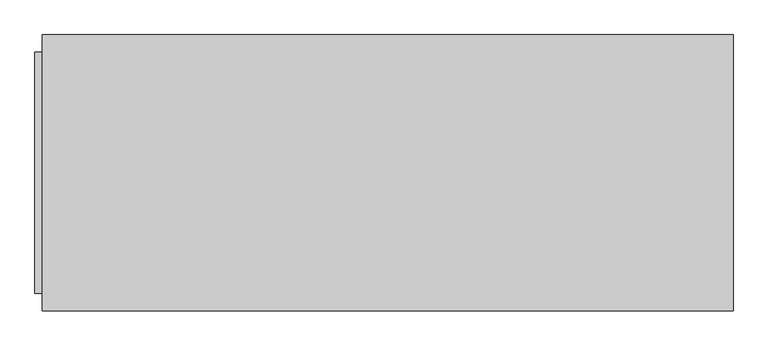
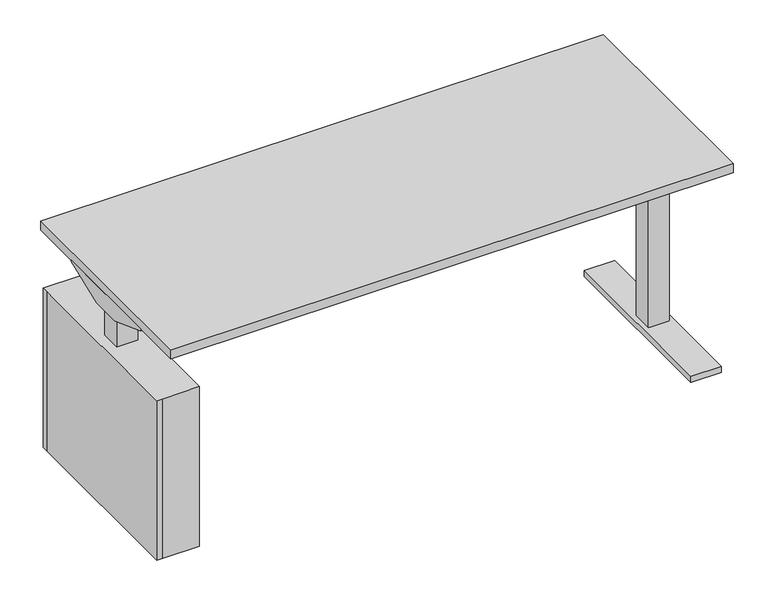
"""IFC4 building model written with IfcOpenShell, lengths in millimetres: furniture geometry, Haworth_Masters_Credenza_Desk.0001 : 28d 70w Credenza Desk - Shrouds."""

from ifc_helpers import new_model, si_unit, frame, origin, origin_with_axes, place, context, project, spatial, polyline, outline, extrude, source, transform, mapped, element, save


def furniture_d69a98cc(model_context):
    return source(origin(), model_context, "Body", "SweptSolid", [
        extrude(outline(polyline([(-889.0, -311.15), (-908.05, -311.15), (-908.05, 292.1), (-908.05, 311.15), (-792.4601562, 311.15), (-773.4101562, 311.15), (-773.4101562, -311.15), (-889.0, -311.15)]), holes=[polyline([(-873.7699219, -33.02), (-807.6902344, -33.02), (-807.6902344, 33.02), (-873.7699219, 33.02), (-873.7699219, -33.02)])]), frame((0.0, 0.0, 12.7), z_axis=(0.0, 0.0, 1.0), x_axis=(1.0, 0.0, 0.0)), (0.0, 0.0, 1.0), 533.4),
        extrude(outline(polyline([(-889.0, -292.1), (-889.0, 292.1), (-792.4601562, 292.1), (-792.4601562, -292.1), (-889.0, -292.1)])), origin_with_axes(), (0.0, 0.0, 1.0), 20.6375),
        extrude(outline(polyline([(-49.3599854, 648.1304493), (-190.5, 700.0875), (-190.5, 706.4375), (190.5, 706.4375), (190.5, 700.0875), (49.3599854, 648.1304493), (-49.3599854, 648.1304493)])), frame((-889.0, 0.0, 0.0), z_axis=(1.0, 0.0, 0.0), x_axis=(0.0, 1.0, 0.0)), (0.0, 0.0, 1.0), 25.4),
        extrude(outline(polyline([(-863.6, -29.21), (-863.6, 29.21), (-811.5597656, 29.21), (-811.5597656, -29.21), (-863.6, -29.21)])), frame((0.0, 0.0, 642.9375), z_axis=(0.0, 0.0, 1.0), x_axis=(1.0, 0.0, 0.0)), (0.0, 0.0, 1.0), 63.5),
        extrude(outline(polyline([(-873.7699219, -33.02), (-873.7699219, 33.02), (-807.6902344, 33.02), (-807.6902344, -33.02), (-873.7699219, -33.02)])), frame((0.0, 0.0, 20.6375), z_axis=(0.0, 0.0, 1.0), x_axis=(1.0, 0.0, 0.0)), (0.0, 0.0, 1.0), 622.3),
        extrude(outline(polyline([(889.0, -292.1), (792.4601563, -292.1), (792.4601563, 292.1), (889.0, 292.1), (889.0, -292.1)])), origin_with_axes(), (0.0, 0.0, 1.0), 20.6375),
        extrude(outline(polyline([(-49.3599854, 648.1304493), (-190.5, 700.0875), (-190.5, 706.4375), (190.5, 706.4375), (190.5, 700.0875), (49.3599854, 648.1304493), (-49.3599854, 648.1304493)])), frame((863.6, 0.0, 0.0), z_axis=(1.0, 0.0, 0.0), x_axis=(0.0, 1.0, 0.0)), (0.0, 0.0, 1.0), 25.4),
        extrude(outline(polyline([(863.6, -29.21), (811.5597656, -29.21), (811.5597656, 29.21), (863.6, 29.21), (863.6, -29.21)])), frame((0.0, 0.0, 642.9375), z_axis=(0.0, 0.0, 1.0), x_axis=(1.0, 0.0, 0.0)), (0.0, 0.0, 1.0), 63.5),
        extrude(outline(polyline([(873.7699219, -33.02), (807.6902344, -33.02), (807.6902344, 33.02), (873.7699219, 33.02), (873.7699219, -33.02)])), frame((0.0, 0.0, 20.6375), z_axis=(0.0, 0.0, 1.0), x_axis=(1.0, 0.0, 0.0)), (0.0, 0.0, 1.0), 622.3),
        extrude(outline(polyline([(889.0, -355.6), (-889.0, -355.6), (-889.0, 355.6), (889.0, 355.6), (889.0, -355.6)])), frame((0.0, 0.0, 706.4375), z_axis=(0.0, 0.0, 1.0), x_axis=(1.0, 0.0, 0.0)), (0.0, 0.0, 1.0), 30.1625),
    ])


if __name__ == "__main__":
    model = new_model("IFC4")
    model_context = context("Model", 3, world=origin())
    ifc_project = project(units=[si_unit("LENGTHUNIT", "METRE", prefix="MILLI")], contexts=[model_context])
    site = spatial("IfcSite", under=ifc_project)
    building = spatial("IfcBuilding", under=site)
    placement = place(None, origin())
    furniture_shape = furniture_d69a98cc(model_context)
    element("IfcFurniture", 1, ObjectType="Haworth_Masters_Credenza_Desk.0001 : 28d 70w Credenza Desk - Shrouds", at=placement, inside=building, context=model_context, shape_type="MappedRepresentation", body=[
        mapped(furniture_shape, transform((0.0, 0.0, 0.0), x_axis=(1.0, 0.0, 0.0), y_axis=(0.0, 1.0, 0.0), z_axis=(0.0, 0.0, 1.0))),
    ])
    save(model, "model.ifc")
